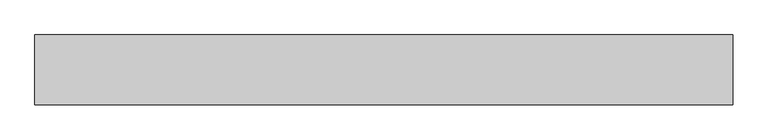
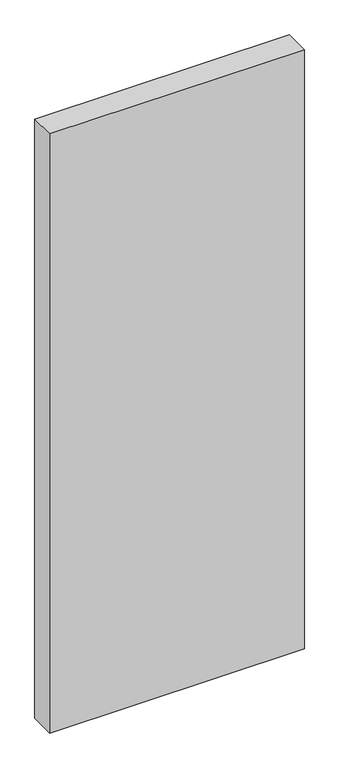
"""IFC4 building model written with IfcOpenShell, lengths in millimetres: proxy geometry."""

from ifc_helpers import new_model, si_unit, origin, origin_with_axes, place, context, project, spatial, polyline, outline, extrude, source, transform, mapped, element, save


def generic_models_0a861db5(model_context):
    return source(origin(), model_context, "Body", "SweptSolid", [
        extrude(outline(polyline([(1000.0, 0.0), (0.0, 0.0), (0.0, 100.0), (1000.0, 100.0), (1000.0, 0.0)])), origin_with_axes(), (0.0, 0.0, 1.0), 2485.0),
    ])


if __name__ == "__main__":
    model = new_model("IFC4")
    model_context = context("Model", 3, world=origin())
    ifc_project = project(units=[si_unit("LENGTHUNIT", "METRE", prefix="MILLI")], contexts=[model_context])
    site = spatial("IfcSite", under=ifc_project)
    building = spatial("IfcBuilding", under=site)
    placement = place(None, origin())
    generic_models_shape = generic_models_0a861db5(model_context)
    element("IfcBuildingElementProxy", 1, Name="Generic Models", at=placement, inside=building, context=model_context, shape_type="MappedRepresentation", body=[
        mapped(generic_models_shape, transform((0.0, 0.0, 0.0), x_axis=(1.0, 0.0, 0.0), y_axis=(0.0, 1.0, 0.0), z_axis=(0.0, 0.0, 1.0))),
    ])
    save(model, "model.ifc")
